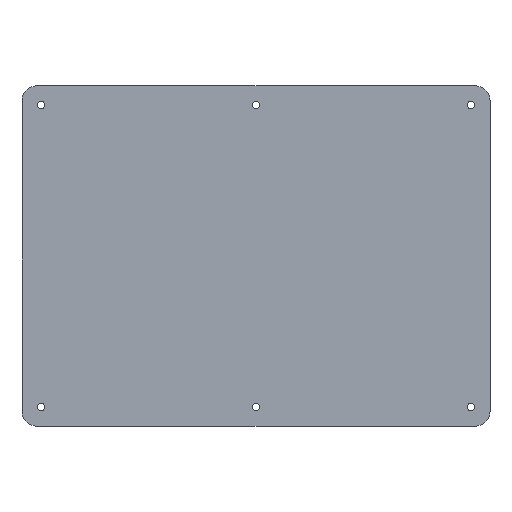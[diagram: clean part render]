
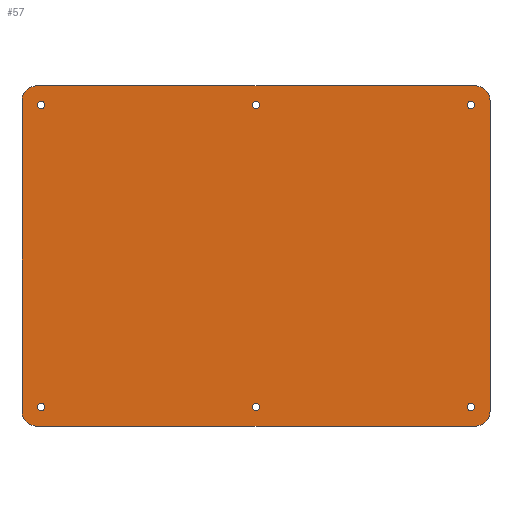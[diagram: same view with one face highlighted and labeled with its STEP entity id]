
A CAD part, top view. The second image highlights one B-rep face of the part: STEP entity #57.
In plain terms, the highlighted planar face has unit normal (0, 0, 1).
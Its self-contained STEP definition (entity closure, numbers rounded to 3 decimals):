
#21 = EDGE_CURVE('',#22,#24,#26,.T.);
#22 = VERTEX_POINT('',#23);
#23 = CARTESIAN_POINT('',(0.,7.,109.));
#24 = VERTEX_POINT('',#25);
#25 = CARTESIAN_POINT('',(0.,153.,109.));
#26 = LINE('',#27,#28);
#27 = CARTESIAN_POINT('',(0.,0.,109.));
#28 = VECTOR('',#29,1.);
#29 = DIRECTION('',(0.,1.,0.));
#57 = ADVANCED_FACE('',(#58,#119,#130,#141,#152,#163,#174),#185,.T.);
#58 = FACE_BOUND('',#59,.T.);
#59 = EDGE_LOOP('',(#60,#61,#70,#78,#87,#95,#104,#112));
#60 = ORIENTED_EDGE('',*,*,#21,.F.);
#61 = ORIENTED_EDGE('',*,*,#62,.T.);
#62 = EDGE_CURVE('',#22,#63,#65,.T.);
#63 = VERTEX_POINT('',#64);
#64 = CARTESIAN_POINT('',(7.,0.,109.));
#65 = CIRCLE('',#66,7.);
#66 = AXIS2_PLACEMENT_3D('',#67,#68,#69);
#67 = CARTESIAN_POINT('',(7.,7.,109.));
#68 = DIRECTION('',(-0.,0.,1.));
#69 = DIRECTION('',(0.,-1.,0.));
#70 = ORIENTED_EDGE('',*,*,#71,.T.);
#71 = EDGE_CURVE('',#63,#72,#74,.T.);
#72 = VERTEX_POINT('',#73);
#73 = CARTESIAN_POINT('',(213.,0.,109.));
#74 = LINE('',#75,#76);
#75 = CARTESIAN_POINT('',(0.,0.,109.));
#76 = VECTOR('',#77,1.);
#77 = DIRECTION('',(1.,0.,0.));
#78 = ORIENTED_EDGE('',*,*,#79,.F.);
#79 = EDGE_CURVE('',#80,#72,#82,.T.);
#80 = VERTEX_POINT('',#81);
#81 = CARTESIAN_POINT('',(220.,7.,109.));
#82 = CIRCLE('',#83,7.);
#83 = AXIS2_PLACEMENT_3D('',#84,#85,#86);
#84 = CARTESIAN_POINT('',(213.,7.,109.));
#85 = DIRECTION('',(-0.,-0.,-1.));
#86 = DIRECTION('',(0.,-1.,0.));
#87 = ORIENTED_EDGE('',*,*,#88,.T.);
#88 = EDGE_CURVE('',#80,#89,#91,.T.);
#89 = VERTEX_POINT('',#90);
#90 = CARTESIAN_POINT('',(220.,153.,109.));
#91 = LINE('',#92,#93);
#92 = CARTESIAN_POINT('',(220.,0.,109.));
#93 = VECTOR('',#94,1.);
#94 = DIRECTION('',(0.,1.,0.));
#95 = ORIENTED_EDGE('',*,*,#96,.T.);
#96 = EDGE_CURVE('',#89,#97,#99,.T.);
#97 = VERTEX_POINT('',#98);
#98 = CARTESIAN_POINT('',(213.,160.,109.));
#99 = CIRCLE('',#100,7.);
#100 = AXIS2_PLACEMENT_3D('',#101,#102,#103);
#101 = CARTESIAN_POINT('',(213.,153.,109.));
#102 = DIRECTION('',(-0.,0.,1.));
#103 = DIRECTION('',(0.,-1.,0.));
#104 = ORIENTED_EDGE('',*,*,#105,.F.);
#105 = EDGE_CURVE('',#106,#97,#108,.T.);
#106 = VERTEX_POINT('',#107);
#107 = CARTESIAN_POINT('',(7.,160.,109.));
#108 = LINE('',#109,#110);
#109 = CARTESIAN_POINT('',(0.,160.,109.));
#110 = VECTOR('',#111,1.);
#111 = DIRECTION('',(1.,0.,0.));
#112 = ORIENTED_EDGE('',*,*,#113,.F.);
#113 = EDGE_CURVE('',#24,#106,#114,.T.);
#114 = CIRCLE('',#115,7.);
#115 = AXIS2_PLACEMENT_3D('',#116,#117,#118);
#116 = CARTESIAN_POINT('',(7.,153.,109.));
#117 = DIRECTION('',(-0.,-0.,-1.));
#118 = DIRECTION('',(0.,-1.,0.));
#119 = FACE_BOUND('',#120,.T.);
#120 = EDGE_LOOP('',(#121));
#121 = ORIENTED_EDGE('',*,*,#122,.F.);
#122 = EDGE_CURVE('',#123,#123,#125,.T.);
#123 = VERTEX_POINT('',#124);
#124 = CARTESIAN_POINT('',(10.75,9.,109.));
#125 = CIRCLE('',#126,1.75);
#126 = AXIS2_PLACEMENT_3D('',#127,#128,#129);
#127 = CARTESIAN_POINT('',(9.,9.,109.));
#128 = DIRECTION('',(0.,0.,1.));
#129 = DIRECTION('',(1.,0.,0.));
#130 = FACE_BOUND('',#131,.T.);
#131 = EDGE_LOOP('',(#132));
#132 = ORIENTED_EDGE('',*,*,#133,.F.);
#133 = EDGE_CURVE('',#134,#134,#136,.T.);
#134 = VERTEX_POINT('',#135);
#135 = CARTESIAN_POINT('',(111.75,9.,109.));
#136 = CIRCLE('',#137,1.75);
#137 = AXIS2_PLACEMENT_3D('',#138,#139,#140);
#138 = CARTESIAN_POINT('',(110.,9.,109.));
#139 = DIRECTION('',(0.,0.,1.));
#140 = DIRECTION('',(1.,0.,0.));
#141 = FACE_BOUND('',#142,.T.);
#142 = EDGE_LOOP('',(#143));
#143 = ORIENTED_EDGE('',*,*,#144,.F.);
#144 = EDGE_CURVE('',#145,#145,#147,.T.);
#145 = VERTEX_POINT('',#146);
#146 = CARTESIAN_POINT('',(212.75,9.,109.));
#147 = CIRCLE('',#148,1.75);
#148 = AXIS2_PLACEMENT_3D('',#149,#150,#151);
#149 = CARTESIAN_POINT('',(211.,9.,109.));
#150 = DIRECTION('',(0.,0.,1.));
#151 = DIRECTION('',(1.,0.,0.));
#152 = FACE_BOUND('',#153,.T.);
#153 = EDGE_LOOP('',(#154));
#154 = ORIENTED_EDGE('',*,*,#155,.F.);
#155 = EDGE_CURVE('',#156,#156,#158,.T.);
#156 = VERTEX_POINT('',#157);
#157 = CARTESIAN_POINT('',(10.75,151.,109.));
#158 = CIRCLE('',#159,1.75);
#159 = AXIS2_PLACEMENT_3D('',#160,#161,#162);
#160 = CARTESIAN_POINT('',(9.,151.,109.));
#161 = DIRECTION('',(0.,0.,1.));
#162 = DIRECTION('',(1.,0.,0.));
#163 = FACE_BOUND('',#164,.T.);
#164 = EDGE_LOOP('',(#165));
#165 = ORIENTED_EDGE('',*,*,#166,.F.);
#166 = EDGE_CURVE('',#167,#167,#169,.T.);
#167 = VERTEX_POINT('',#168);
#168 = CARTESIAN_POINT('',(111.75,151.,109.));
#169 = CIRCLE('',#170,1.75);
#170 = AXIS2_PLACEMENT_3D('',#171,#172,#173);
#171 = CARTESIAN_POINT('',(110.,151.,109.));
#172 = DIRECTION('',(0.,0.,1.));
#173 = DIRECTION('',(1.,0.,0.));
#174 = FACE_BOUND('',#175,.T.);
#175 = EDGE_LOOP('',(#176));
#176 = ORIENTED_EDGE('',*,*,#177,.F.);
#177 = EDGE_CURVE('',#178,#178,#180,.T.);
#178 = VERTEX_POINT('',#179);
#179 = CARTESIAN_POINT('',(212.75,151.,109.));
#180 = CIRCLE('',#181,1.75);
#181 = AXIS2_PLACEMENT_3D('',#182,#183,#184);
#182 = CARTESIAN_POINT('',(211.,151.,109.));
#183 = DIRECTION('',(0.,0.,1.));
#184 = DIRECTION('',(1.,0.,0.));
#185 = PLANE('',#186);
#186 = AXIS2_PLACEMENT_3D('',#187,#188,#189);
#187 = CARTESIAN_POINT('',(0.,0.,109.));
#188 = DIRECTION('',(0.,0.,1.));
#189 = DIRECTION('',(1.,0.,0.));
